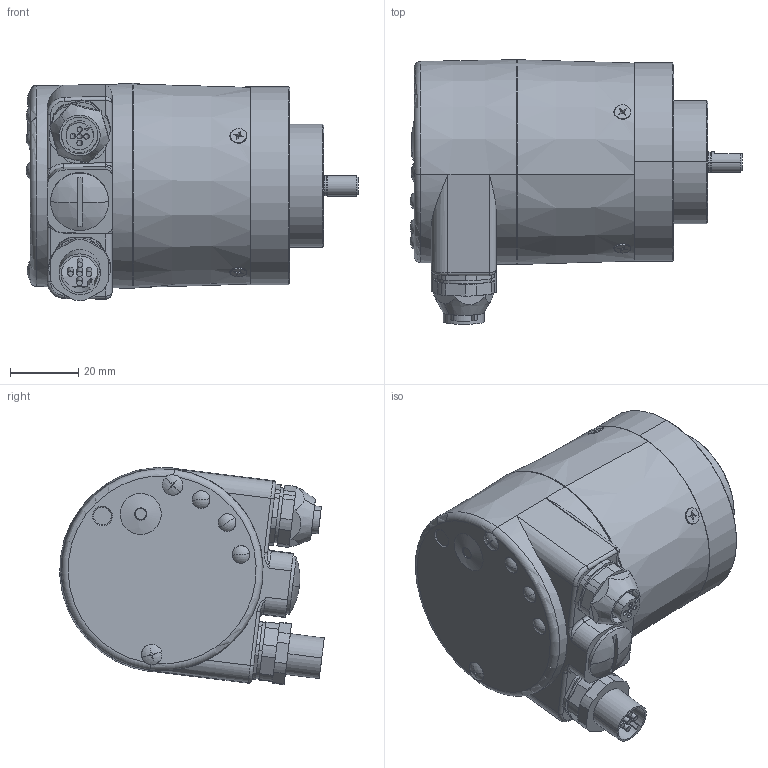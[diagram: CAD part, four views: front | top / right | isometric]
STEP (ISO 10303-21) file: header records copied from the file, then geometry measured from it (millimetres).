
FILE_DESCRIPTION (( 'STEP AP214' ), '1' );
FILE_NAME ('5868.1122.XXXX.STEP', '2008-06-24T07:42:26', ( 'admin' ), ( 'Fritz Kübler GmbH' ), 'SwSTEP 2.0', 'SolidWorks 2007', '' );
FILE_SCHEMA (( 'AUTOMOTIVE_DESIGN' ));
Length unit declared in the file: millimetre
Products named in the file (1): 5868.1122.XXXX
Bounding box: 97.15 x 77.38 x 63.55 mm (x, y, z)
Surface area: 28256.1 mm2 (no closed solid volume)
Topology: 0 solids, 22 shells, 399 faces, 1019 edges, 649 vertices
Faces by surface type: plane 164, cylinder 147, cone 48, torus 18, sphere 13, bspline 9
Entity records: 17091 total; most frequent: CARTESIAN_POINT 2869, DIRECTION 2200, ORIENTED_EDGE 1888, EDGE_CURVE 1014, AXIS2_PLACEMENT_3D 840, VERTEX_POINT 649, VECTOR 520, LINE 520
